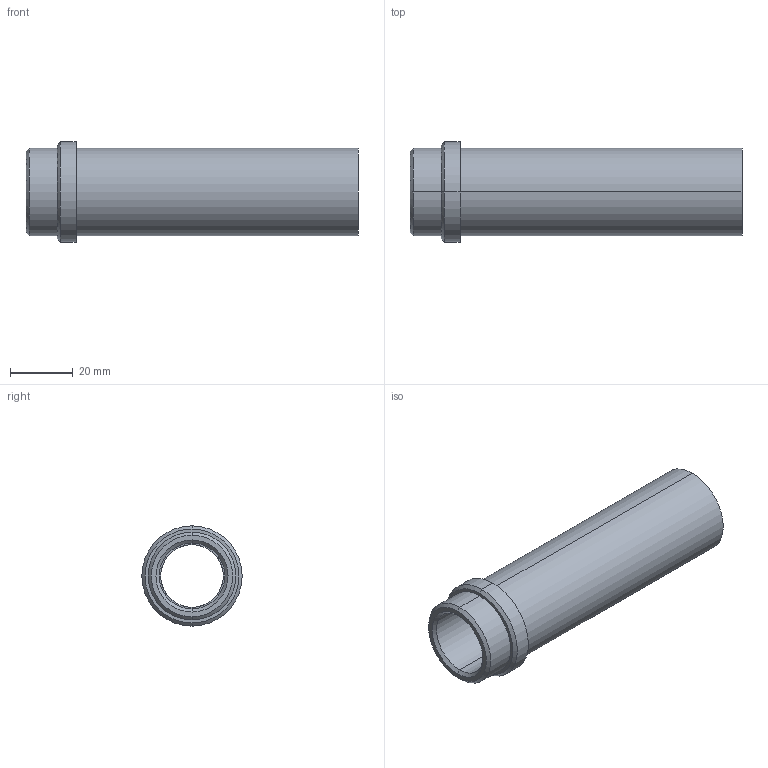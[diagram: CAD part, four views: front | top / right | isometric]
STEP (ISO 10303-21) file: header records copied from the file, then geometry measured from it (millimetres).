
FILE_DESCRIPTION(('CATIA V5 STEP Exchange'),'2;1');
FILE_NAME('C:\Users\Utente\Desktop\IO LAVORO\3D X SITO CF\X SITO\PLASTICA\358\358-20x106.stp','2021-04-08T13:57:05+00:00',('none'),('none'),'CATIA Version 5 Release 20 GA (IN-10)','CATIA V5 STEP AP203','none');
FILE_SCHEMA(('CONFIG_CONTROL_DESIGN'));
Length unit declared in the file: millimetre
Products named in the file (1): 358-20X106
Bounding box: 106 x 32 x 32 mm (x, y, z)
Volume: 30792 mm3; surface area: 17044.8 mm2
Topology: 1 solids, 1 shells, 23 faces, 74 edges, 56 vertices
Faces by surface type: cylinder 10, cone 6, plane 5, torus 2
Entity records: 1066 total; most frequent: CARTESIAN_POINT 378, ORIENTED_EDGE 148, DIRECTION 104, EDGE_CURVE 74, AXIS2_PLACEMENT_3D 66, VERTEX_POINT 56, CIRCLE 42, EDGE_LOOP 28
